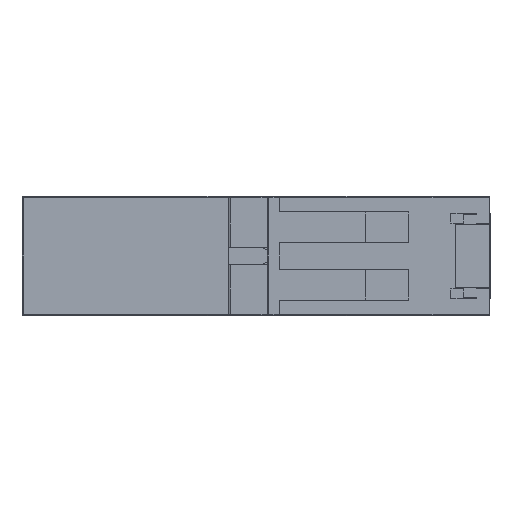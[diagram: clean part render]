
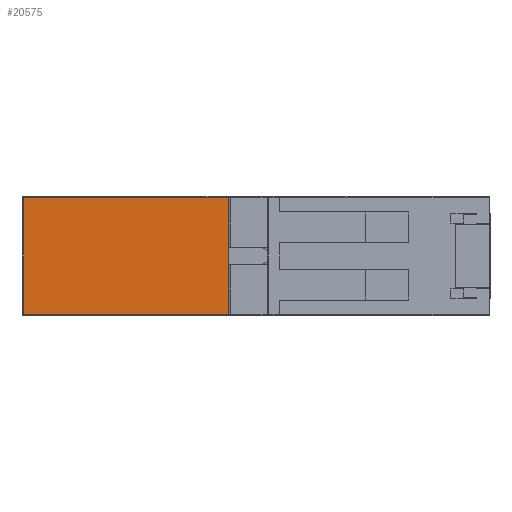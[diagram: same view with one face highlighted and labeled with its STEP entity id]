
A CAD part, left-side view. The second image highlights one B-rep face of the part: STEP entity #20575.
In plain terms, the highlighted planar face has unit normal (-1, 0, 0).
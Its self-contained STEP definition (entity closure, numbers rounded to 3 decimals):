
#192 = ORIENTED_EDGE ( 'NONE', *, *, #12583, .F. ) ;
#248 = EDGE_CURVE ( 'NONE', #22723, #17530, #24293, .T. ) ;
#277 = EDGE_CURVE ( 'NONE', #3643, #16183, #23656, .T. ) ;
#395 = CARTESIAN_POINT ( 'NONE',  ( -26., 27., -14.336 ) ) ;
#766 = CARTESIAN_POINT ( 'NONE',  ( -26., 27., -14.336 ) ) ;
#1019 = CARTESIAN_POINT ( 'NONE',  ( -26., 60.7, -0.336 ) ) ;
#1115 = CARTESIAN_POINT ( 'NONE',  ( -26., 28.4, -6.786 ) ) ;
#1269 = EDGE_CURVE ( 'NONE', #9578, #18946, #6684, .T. ) ;
#1390 = VECTOR ( 'NONE', #18241, 1000. ) ;
#1720 = CARTESIAN_POINT ( 'NONE',  ( -26., 33.7, -1.536 ) ) ;
#1961 = CARTESIAN_POINT ( 'NONE',  ( -26., 33.7, -14.136 ) ) ;
#2393 = CARTESIAN_POINT ( 'NONE',  ( -26., 27., -1.536 ) ) ;
#2426 = CARTESIAN_POINT ( 'NONE',  ( -26., 27., -0.336 ) ) ;
#2953 = CARTESIAN_POINT ( 'NONE',  ( -26., 33.9, -9.086 ) ) ;
#3042 = ORIENTED_EDGE ( 'NONE', *, *, #248, .T. ) ;
#3211 = VERTEX_POINT ( 'NONE', #12162 ) ;
#3224 = PLANE ( 'NONE',  #24961 ) ;
#3344 = CARTESIAN_POINT ( 'NONE',  ( -26., 28.4, -9.086 ) ) ;
#3447 = DIRECTION ( 'NONE',  ( 0., 0., -1. ) ) ;
#3643 = VERTEX_POINT ( 'NONE', #7929 ) ;
#4211 = AXIS2_PLACEMENT_3D ( 'NONE', #1961, #7127, #7539 ) ;
#4483 = CARTESIAN_POINT ( 'NONE',  ( -26., 33.9, -14.136 ) ) ;
#4520 = LINE ( 'NONE', #6323, #9352 ) ;
#4661 = LINE ( 'NONE', #19910, #19681 ) ;
#4932 = VECTOR ( 'NONE', #6851, 1000. ) ;
#5245 = VECTOR ( 'NONE', #15762, 1000. ) ;
#5293 = DIRECTION ( 'NONE',  ( 1., 0., 0. ) ) ;
#5491 = EDGE_CURVE ( 'NONE', #14341, #6472, #7213, .T. ) ;
#5778 = ORIENTED_EDGE ( 'NONE', *, *, #25685, .T. ) ;
#5941 = EDGE_CURVE ( 'NONE', #14341, #24466, #13280, .T. ) ;
#6323 = CARTESIAN_POINT ( 'NONE',  ( -26., 27., -14.336 ) ) ;
#6351 = EDGE_CURVE ( 'NONE', #11350, #17530, #10399, .T. ) ;
#6472 = VERTEX_POINT ( 'NONE', #23615 ) ;
#6540 = ORIENTED_EDGE ( 'NONE', *, *, #21762, .F. ) ;
#6545 = EDGE_CURVE ( 'NONE', #3211, #16183, #16105, .T. ) ;
#6684 = LINE ( 'NONE', #15706, #22316 ) ;
#6851 = DIRECTION ( 'NONE',  ( 0., 0., -1. ) ) ;
#6978 = AXIS2_PLACEMENT_3D ( 'NONE', #8769, #8092, #17697 ) ;
#7127 = DIRECTION ( 'NONE',  ( 1., 0., 0. ) ) ;
#7157 = LINE ( 'NONE', #23702, #22154 ) ;
#7213 = LINE ( 'NONE', #1115, #22844 ) ;
#7262 = CARTESIAN_POINT ( 'NONE',  ( -26., 33.9, -0.136 ) ) ;
#7539 = DIRECTION ( 'NONE',  ( 0., 0., -1. ) ) ;
#7817 = ORIENTED_EDGE ( 'NONE', *, *, #277, .T. ) ;
#7929 = CARTESIAN_POINT ( 'NONE',  ( -26., 33.9, -1.736 ) ) ;
#8092 = DIRECTION ( 'NONE',  ( 1., 0., 0. ) ) ;
#8380 = VERTEX_POINT ( 'NONE', #2426 ) ;
#8578 = DIRECTION ( 'NONE',  ( 0., 0., 1. ) ) ;
#8769 = CARTESIAN_POINT ( 'NONE',  ( -26., 33.7, -1.736 ) ) ;
#9196 = DIRECTION ( 'NONE',  ( 0., -1., 0. ) ) ;
#9279 = ORIENTED_EDGE ( 'NONE', *, *, #6351, .F. ) ;
#9352 = VECTOR ( 'NONE', #12414, 1000. ) ;
#9473 = CARTESIAN_POINT ( 'NONE',  ( -26., 28.4, -6.786 ) ) ;
#9578 = VERTEX_POINT ( 'NONE', #13011 ) ;
#9744 = DIRECTION ( 'NONE',  ( 0., 1., 0. ) ) ;
#9917 = ORIENTED_EDGE ( 'NONE', *, *, #11733, .T. ) ;
#10399 = LINE ( 'NONE', #17011, #4932 ) ;
#10586 = VECTOR ( 'NONE', #25812, 1000. ) ;
#11350 = VERTEX_POINT ( 'NONE', #2953 ) ;
#11500 = DIRECTION ( 'NONE',  ( 0., 0., -1. ) ) ;
#11733 = EDGE_CURVE ( 'NONE', #3211, #8380, #17416, .T. ) ;
#12162 = CARTESIAN_POINT ( 'NONE',  ( -26., 27., -1.536 ) ) ;
#12414 = DIRECTION ( 'NONE',  ( 0., 1., 0. ) ) ;
#12583 = EDGE_CURVE ( 'NONE', #3643, #6472, #7157, .T. ) ;
#12637 = VECTOR ( 'NONE', #3447, 1000. ) ;
#12777 = EDGE_CURVE ( 'NONE', #15889, #9578, #23098, .T. ) ;
#13011 = CARTESIAN_POINT ( 'NONE',  ( -26., 60.7, -15.536 ) ) ;
#13280 = LINE ( 'NONE', #9473, #12637 ) ;
#13636 = CARTESIAN_POINT ( 'NONE',  ( -26., 27., -1.536 ) ) ;
#14341 = VERTEX_POINT ( 'NONE', #25564 ) ;
#14407 = EDGE_CURVE ( 'NONE', #24466, #11350, #21428, .T. ) ;
#15385 = ORIENTED_EDGE ( 'NONE', *, *, #14407, .F. ) ;
#15702 = LINE ( 'NONE', #766, #23049 ) ;
#15706 = CARTESIAN_POINT ( 'NONE',  ( -26., 27., -15.536 ) ) ;
#15762 = DIRECTION ( 'NONE',  ( 0., 1., 0. ) ) ;
#15860 = ORIENTED_EDGE ( 'NONE', *, *, #21568, .T. ) ;
#15889 = VERTEX_POINT ( 'NONE', #1019 ) ;
#16105 = LINE ( 'NONE', #13636, #5245 ) ;
#16183 = VERTEX_POINT ( 'NONE', #1720 ) ;
#16190 = CARTESIAN_POINT ( 'NONE',  ( -26., 60.7, -0.136 ) ) ;
#16700 = CARTESIAN_POINT ( 'NONE',  ( -26., 33.7, -14.336 ) ) ;
#16763 = VECTOR ( 'NONE', #8578, 1000. ) ;
#17011 = CARTESIAN_POINT ( 'NONE',  ( -26., 33.9, -0.136 ) ) ;
#17416 = LINE ( 'NONE', #2393, #16763 ) ;
#17530 = VERTEX_POINT ( 'NONE', #4483 ) ;
#17695 = ORIENTED_EDGE ( 'NONE', *, *, #5491, .T. ) ;
#17697 = DIRECTION ( 'NONE',  ( 0., 0., -1. ) ) ;
#18241 = DIRECTION ( 'NONE',  ( 0., 0., -1. ) ) ;
#18923 = FACE_OUTER_BOUND ( 'NONE', #19018, .T. ) ;
#18946 = VERTEX_POINT ( 'NONE', #23766 ) ;
#18984 = ORIENTED_EDGE ( 'NONE', *, *, #1269, .T. ) ;
#19018 = EDGE_LOOP ( 'NONE', ( #15860, #3042, #9279, #15385, #23345, #17695, #192, #7817, #19081, #9917, #5778, #20796, #18984, #6540 ) ) ;
#19081 = ORIENTED_EDGE ( 'NONE', *, *, #6545, .F. ) ;
#19159 = DIRECTION ( 'NONE',  ( 0., 0., -1. ) ) ;
#19576 = DIRECTION ( 'NONE',  ( 0., 1., 0. ) ) ;
#19681 = VECTOR ( 'NONE', #9744, 1000. ) ;
#19910 = CARTESIAN_POINT ( 'NONE',  ( -26., 33.9, -0.336 ) ) ;
#20575 = ADVANCED_FACE ( 'NONE', ( #18923 ), #3224, .F. ) ;
#20796 = ORIENTED_EDGE ( 'NONE', *, *, #12777, .T. ) ;
#21428 = LINE ( 'NONE', #23773, #10586 ) ;
#21568 = EDGE_CURVE ( 'NONE', #23821, #22723, #4520, .T. ) ;
#21762 = EDGE_CURVE ( 'NONE', #23821, #18946, #15702, .T. ) ;
#22154 = VECTOR ( 'NONE', #11500, 1000. ) ;
#22316 = VECTOR ( 'NONE', #9196, 1000. ) ;
#22723 = VERTEX_POINT ( 'NONE', #16700 ) ;
#22844 = VECTOR ( 'NONE', #23527, 1000. ) ;
#23049 = VECTOR ( 'NONE', #19159, 1000. ) ;
#23098 = LINE ( 'NONE', #16190, #1390 ) ;
#23345 = ORIENTED_EDGE ( 'NONE', *, *, #5941, .F. ) ;
#23527 = DIRECTION ( 'NONE',  ( 0., 1., 0. ) ) ;
#23615 = CARTESIAN_POINT ( 'NONE',  ( -26., 33.9, -6.786 ) ) ;
#23656 = CIRCLE ( 'NONE', #6978, 0.2 ) ;
#23702 = CARTESIAN_POINT ( 'NONE',  ( -26., 33.9, -0.136 ) ) ;
#23766 = CARTESIAN_POINT ( 'NONE',  ( -26., 27., -15.536 ) ) ;
#23773 = CARTESIAN_POINT ( 'NONE',  ( -26., 28.4, -9.086 ) ) ;
#23821 = VERTEX_POINT ( 'NONE', #395 ) ;
#24293 = CIRCLE ( 'NONE', #4211, 0.2 ) ;
#24466 = VERTEX_POINT ( 'NONE', #3344 ) ;
#24961 = AXIS2_PLACEMENT_3D ( 'NONE', #7262, #5293, #19576 ) ;
#25564 = CARTESIAN_POINT ( 'NONE',  ( -26., 28.4, -6.786 ) ) ;
#25685 = EDGE_CURVE ( 'NONE', #8380, #15889, #4661, .T. ) ;
#25812 = DIRECTION ( 'NONE',  ( 0., 1., 0. ) ) ;
